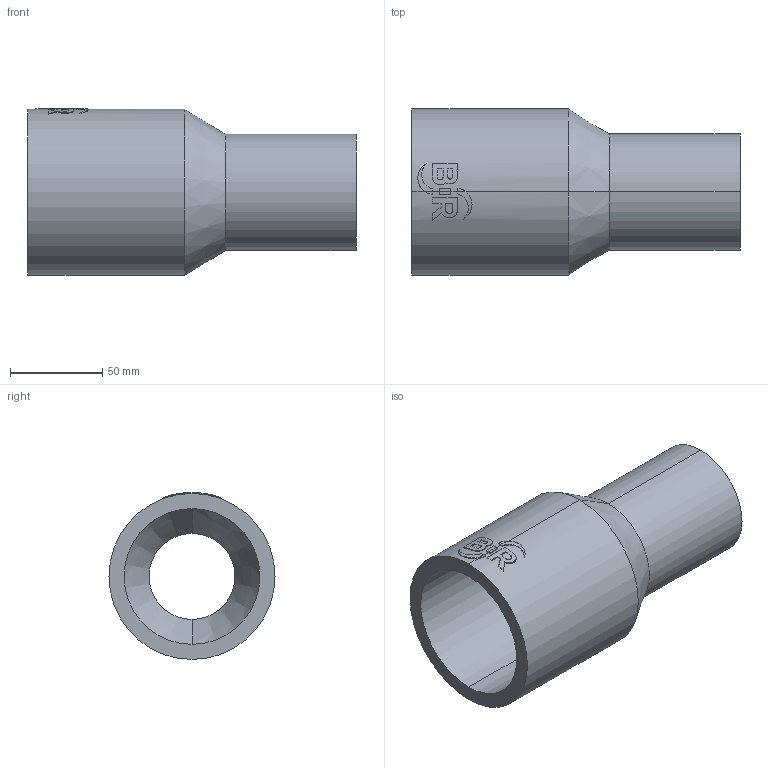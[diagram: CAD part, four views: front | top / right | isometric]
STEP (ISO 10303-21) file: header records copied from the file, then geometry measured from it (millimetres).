
FILE_DESCRIPTION (( 'STEP AP214' ), '1' );
FILE_NAME ('2323131115.STEP', '2018-07-20T12:15:09', ( '' ), ( '' ), 'SwSTEP 2.0', 'SolidWorks 2017', '' );
FILE_SCHEMA (( 'AUTOMOTIVE_DESIGN' ));
Length unit declared in the file: millimetre
Products named in the file (1): 2323131115
Bounding box: 178 x 90 x 90.46 mm (x, y, z)
Volume: 324106.7 mm3; surface area: 82655.6 mm2
Topology: 1 solids, 1 shells, 63 faces, 160 edges, 104 vertices
Faces by surface type: cylinder 31, plane 28, cone 4
Entity records: 3144 total; most frequent: CARTESIAN_POINT 935, ORIENTED_EDGE 320, DIRECTION 296, EDGE_CURVE 160, AXIS2_PLACEMENT_3D 112, VERTEX_POINT 104, LINE 72, VECTOR 72
